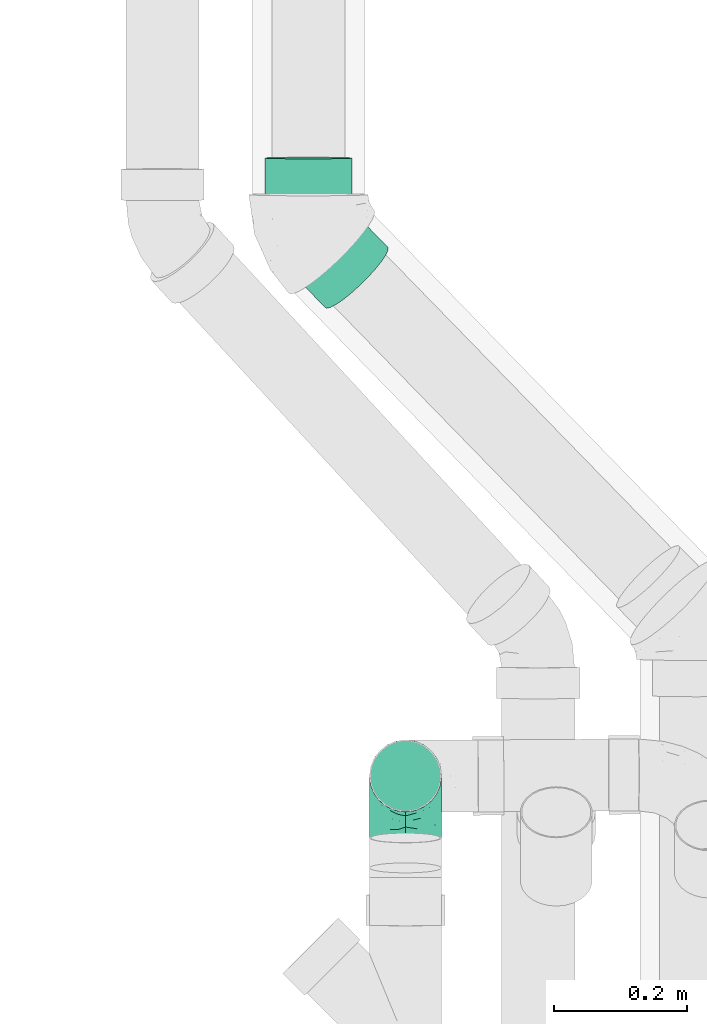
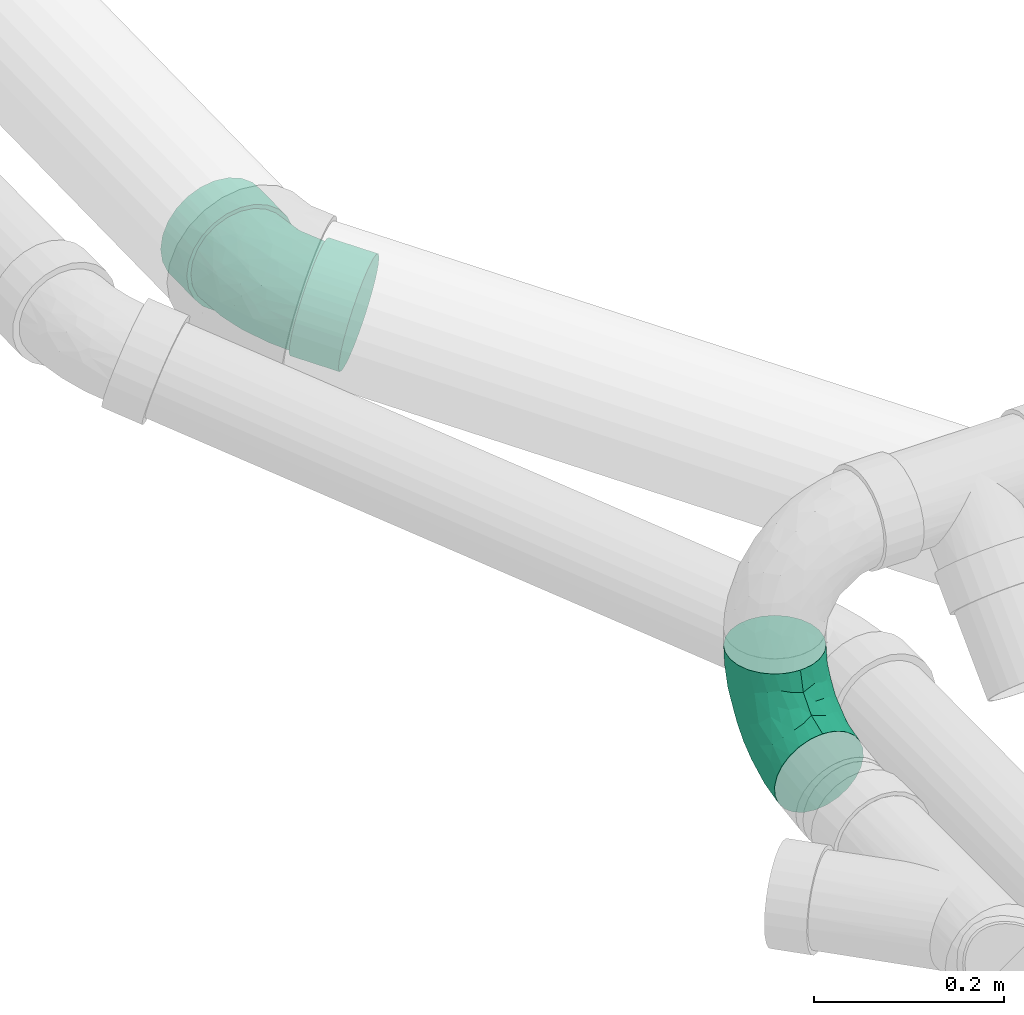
# One storey, part 71 of 78: 2 flow fittings.
"""IFC2X3 building model written with IfcOpenShell, lengths in millimetres."""

from ifc_helpers import new_model, entity, si_unit, converted_unit, derived_unit, direction, frame, origin_with_axes, place, context, subcontext, project, spatial, open_shell, surface_model, source, transform, mapped, type_object, element, save


model = new_model("IFC2X3")

# Units and contexts
model_context = context("Model", 3, precision=0.01, world=frame((0.0, 4.29681676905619e-09, 0.0)), true_north=direction((4.01073788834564e-13, 1.0)))
plan_context = context("Plan", 3, precision=0.01, world=frame((0.0, 4.29681676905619e-09, 0.0)), true_north=direction((4.01073788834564e-13, 1.0)))
body_context = subcontext(model_context, "Body", "Model", "MODEL_VIEW")
ifc_project = project(units=[converted_unit("PLANEANGLEUNIT", "DEGREE", entity("IfcPositiveLengthMeasure", 0.0174532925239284), si_unit("PLANEANGLEUNIT", "RADIAN"), dimensions=[0, 0, 0, 0, 0, 0, 0]), si_unit("AREAUNIT", "SQUARE_METRE"), si_unit("LENGTHUNIT", "METRE", prefix="MILLI"), si_unit("MASSUNIT", "GRAM", prefix="KILO"), si_unit("POWERUNIT", "WATT"), si_unit("PRESSUREUNIT", "PASCAL"), si_unit("FORCEUNIT", "NEWTON", prefix="KILO"), si_unit("ELECTRICVOLTAGEUNIT", "VOLT"), si_unit("ELECTRICCURRENTUNIT", "AMPERE"), si_unit("THERMODYNAMICTEMPERATUREUNIT", "DEGREE_CELSIUS"), si_unit("TIMEUNIT", "SECOND"), si_unit("VOLUMEUNIT", "CUBIC_METRE"), derived_unit("LINEARVELOCITYUNIT", [(si_unit("LENGTHUNIT", "METRE"), 1), (si_unit("TIMEUNIT", "SECOND"), -1)]), derived_unit("VOLUMETRICFLOWRATEUNIT", [(si_unit("VOLUMEUNIT", "CUBIC_METRE"), 1), (si_unit("TIMEUNIT", "SECOND"), -1)]), derived_unit("THERMALTRANSMITTANCEUNIT", [(si_unit("POWERUNIT", "WATT"), 1), (si_unit("THERMODYNAMICTEMPERATUREUNIT", "KELVIN"), -1), (si_unit("AREAUNIT", "SQUARE_METRE"), -1)]), derived_unit("SOUNDPRESSUREUNIT", [(si_unit("PRESSUREUNIT", "PASCAL"), 1)])], contexts=[model_context, plan_context])

# Site, building, storey
site_placement = place(None, frame((0.0, -4.29681676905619e-09, 0.0), z_axis=(0.0, 0.0, 1.0), x_axis=(1.0, 0.0, 0.0)))
site = spatial("IfcSite", under=ifc_project, at=site_placement, Name="ENGM", CompositionType="ELEMENT")
building_placement = place(site_placement, frame((0.0, 4.29681676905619e-09, 0.0), z_axis=(0.0, 0.0, 1.0), x_axis=(1.0, 0.0, 0.0)))
building = spatial("IfcBuilding", under=site, at=building_placement, Name="TH", CompositionType="ELEMENT")
storey_placement = place(building_placement, frame((0.0, 0.0, 205200.0), z_axis=(0.0, 0.0, 1.0), x_axis=(1.0, 0.0, 0.0)))
storey = spatial("IfcBuildingStorey", under=building, at=storey_placement, Name="Nivå D + 1,2 m", CompositionType="ELEMENT", Elevation=205200.0)

# Flow fittings
pipe_fitting_type_1 = type_object("IfcPipeFittingType", Name="magi_pipe_fe_elbow_short_001", PredefinedType="BEND")
shared_shape_1 = source(origin_with_axes(), body_context, "Body", "SurfaceModel", [
    surface_model("IfcShellBasedSurfaceModel", [(-93.94905, 0.0, -54.0), (-93.94905, -13.97623, -52.15999), (-93.94905, 13.97623, -52.15999), (-93.94905, -46.76537, 27.0), (-93.94905, 46.76537, -27.0), (-93.94905, 27.0, -46.76537), (-93.94905, 38.18377, -38.18377), (-93.94905, -27.0, -46.76537), (-93.94905, -38.18377, -38.18377), (-93.94905, -46.76537, -27.0), (-93.94905, -52.15999, -13.97623), (-93.94905, -54.0, 0.0), (-93.94905, 52.15999, -13.97623), (-93.94905, 46.76537, 27.0), (-93.94905, 52.15999, 13.97623), (-93.94905, 38.18377, 38.18377), (-93.94905, 13.97623, 52.15999), (-93.94905, 27.0, 46.76537), (-93.94905, -38.18377, 38.18377), (-93.94905, -27.0, 46.76537), (-93.94905, -52.15999, 13.97623), (-93.94905, -13.97623, 52.15999), (-93.94905, 0.0, 54.0), (-93.94905, 54.0, 0.0), (26.85191, 91.10837, -52.15999), (13.01035, 93.04384, -54.0), (-0.83122, 94.9793, -52.15999), (-13.7295, 96.78287, -46.76537), (-24.80551, 98.33164, -38.18377), (-33.30443, 99.52004, -27.0), (-38.64708, 100.26711, -13.97623), (59.32513, 86.56763, 27.0), (50.8262, 87.75604, -38.18377), (39.75019, 89.3048, -46.76537), (59.32513, 86.56763, -27.0), (64.66777, 85.82056, -13.97623), (64.66777, 85.82056, 13.97623), (66.49005, 85.56575, 0.0), (-24.80551, 98.33164, 38.18377), (-38.64708, 100.26711, 13.97623), (-33.30443, 99.52004, 27.0), (-13.7295, 96.78287, 46.76537), (-0.83122, 94.9793, 52.15999), (39.75019, 89.3048, 46.76537), (50.8262, 87.75604, 38.18377), (26.85191, 91.10837, 52.15999), (13.01035, 93.04384, 54.0), (-40.46935, 100.52192, 0.0), (25.32764, 1.74992, 15.46773), (10.59533, -11.79632, 17.75108), (4.08263, -19.90569, 9.53043), (-55.65457, -49.40881, 0.0), (-62.42229, -47.88759, 17.62234), (-67.20461, -50.79356, 0.0), (29.1295, 62.2293, 48.70802), (-34.46538, -26.66784, 37.11859), (-46.40612, -16.3487, 47.79758), (-61.7274, -31.7268, 40.78322), (-72.07418, -42.56483, 31.09932), (-45.74375, -37.90269, 28.83017), (-76.31324, 20.50282, 50.6428), (-68.42956, 34.6113, 44.69736), (17.12314, 32.57532, 47.18453), (2.93551, 16.83126, 47.846), (12.10876, 10.15203, 39.97889), (13.51901, 57.52355, 52.92284), (-72.43192, -20.89793, 49.00559), (-21.33248, -27.96674, 28.05007), (-32.20969, -39.16474, 15.94974), (-6.09994, -24.0905, 18.76166), (38.54555, 52.22525, 40.46658), (-71.44766, 57.44659, 11.93298), (-74.3344, 52.21432, 22.97977), (-63.28957, -6.217, 53.01626), (-68.5273, 7.40344, 53.83321), (-72.1523, 44.71996, 35.05931), (-58.45236, 56.40927, 29.27306), (-48.50842, 55.7633, 37.59383), (-44.94959, 67.09337, 31.06497), (-4.29813, 22.7131, 51.65568), (-34.2972, 77.65005, 35.05931), (-24.80148, 72.56331, 44.69736), (-3.57778, -25.06069, 0.0), (12.3751, -14.22591, 0.0), (-22.16421, 25.47907, 53.98251), (-43.57657, 10.36113, 53.96772), (-30.42055, 3.36426, 52.04149), (-54.58869, 25.13994, 51.49174), (42.84807, 25.20567, 14.90899), (47.44711, 31.32381, 0.0), (55.10308, 52.21632, 17.31459), (38.18282, 28.17989, 27.67359), (50.50562, 59.02503, 30.54492), (59.61085, 59.52303, 0.0), (-19.53066, -35.89546, 0.0), (-14.24267, -31.91796, 10.19751), (-17.3381, 57.54418, 51.49174), (-38.29746, 47.97647, 47.24762), (-32.03649, 36.82784, 52.24177), (-57.25684, 67.46696, 8.50513), (-69.14292, 60.03485, 0.0), (-49.88128, 76.79053, 0.0), (-45.84251, 80.81505, 11.58032), (-56.03452, 64.415, 19.81831), (-41.41718, 80.84897, 22.97977), (-3.30575, 43.8831, 53.91505), (-9.73718, 78.41723, 50.6428), (1.94353, 68.14484, 53.83992), (29.52328, 27.8231, 37.11853), (-9.48756, -12.94975, 36.79746), (-16.11537, 43.26142, 53.57497), (-10.60726, 1.01927, 46.4064), (13.39351, -2.26193, 28.47293), (-2.63713, -16.73705, 27.3063), (38.25426, 14.37157, 0.0), (56.63995, 48.27604, 0.0), (25.31468, 0.07283, 0.0), (-37.59261, -42.65213, 0.0), (-72.39732, 55.52089, -16.95892), (-67.93194, 52.59704, -26.95324), (3.44334, 73.91264, -53.78494), (-12.65128, 68.45732, -51.05285), (-73.67732, 6.82548, -53.78494), (-29.21756, -22.78632, -38.437), (-19.73206, -5.6336, -46.34038), (4.04787, -4.65326, -34.77494), (-66.04574, 22.00956, -51.05285), (-49.42229, 11.8665, -53.96087), (-44.37153, 55.51748, -40.42419), (-64.50409, 47.13657, -35.84407), (-51.35713, 59.03806, -32.5261), (-57.78628, 66.42874, -10.83971), (40.77762, 59.56565, -40.97793), (26.15136, 52.64783, -48.25267), (31.76668, 74.24644, -49.23995), (3.67588, -19.71125, -11.54824), (21.79933, -4.11054, -9.59278), (-55.76207, -18.60856, -48.25267), (-38.53943, -3.47862, -51.42068), (-65.25779, -48.33463, -17.90378), (-77.64882, -42.94057, -31.55897), (-55.1799, 63.43256, -22.84485), (-42.68284, 74.56119, -26.95324), (-22.66051, 25.46115, -53.98954), (-38.56977, 31.24434, -52.32334), (-22.36087, 38.40814, -53.3798), (-64.63873, -32.13589, -40.97793), (-53.97674, 33.53569, -48.62547), (-77.9302, -21.17874, -49.23995), (56.90601, 57.93549, -17.90378), (-55.20571, -40.13803, -29.66699), (-38.06341, -40.43584, -18.83775), (-31.18291, -32.78465, -28.05122), (-13.00502, -27.59156, -20.6043), (43.59599, 28.30373, -17.84614), (47.39634, 49.11536, -29.66699), (-71.14843, 34.02013, -44.5026), (-44.96014, 79.38846, -16.95892), (6.31015, 14.91294, -45.67227), (-12.56383, 14.44287, -51.57457), (-23.83949, 75.17411, -44.5026), (7.97914, 36.60319, -51.43464), (15.70978, 64.51079, -53.07208), (-37.74969, 70.41019, -35.84407), (53.27988, 70.95412, -31.55897), (24.31665, 3.25915, -20.44704), (34.19357, 22.70589, -28.39163), (-47.25758, -46.11657, -10.16733), (16.67509, 33.06226, -47.53731), (-66.06476, -6.62477, -53.07208), (26.6129, 25.78053, -38.437), (-15.07428, -32.34745, -10.38159), (-4.90802, 50.5894, -53.96087), (-11.07485, -20.22864, -30.32876), (6.12509, -12.72769, -23.09516), (-55.99598, 42.99525, -42.95295), (-40.84026, 46.94829, -46.71841), (-25.50496, 49.21606, -50.9899), (19.74981, 5.56117, -29.78971)], [open_shell([[[0, 1, 2]], [[1, 3, 2]], [[3, 4, 5]], [[6, 5, 4]], [[2, 3, 5]], [[7, 8, 1]], [[3, 1, 8]], [[9, 10, 8]], [[11, 8, 10]], [[11, 3, 8]], [[12, 4, 3]], [[12, 13, 14]], [[12, 15, 13]], [[16, 17, 15]], [[12, 3, 15]], [[15, 3, 16]], [[18, 19, 3]], [[3, 11, 20]], [[19, 21, 3]], [[21, 16, 3]], [[16, 21, 22]], [[12, 14, 23]], [[24, 25, 26]], [[27, 24, 26]], [[28, 29, 30]], [[28, 30, 27]], [[24, 27, 31]], [[24, 32, 33]], [[34, 32, 31]], [[32, 24, 31]], [[34, 31, 35]], [[35, 36, 37]], [[38, 27, 30]], [[30, 39, 38]], [[38, 39, 40]], [[38, 41, 42]], [[38, 31, 27]], [[31, 38, 42]], [[31, 43, 44]], [[36, 35, 31]], [[31, 45, 43]], [[31, 42, 45]], [[46, 45, 42]], [[47, 39, 30]], [[48, 49, 50]], [[51, 52, 53]], [[54, 43, 45]], [[55, 56, 57]], [[58, 52, 59]], [[60, 61, 17]], [[3, 58, 18]], [[62, 63, 64]], [[65, 45, 46]], [[57, 19, 18]], [[21, 19, 66]], [[67, 68, 69]], [[43, 54, 70]], [[50, 49, 69]], [[71, 14, 72]], [[22, 73, 74]], [[3, 20, 52]], [[15, 61, 75]], [[16, 22, 74]], [[76, 77, 78]], [[62, 79, 63]], [[72, 14, 13]], [[80, 81, 38]], [[23, 14, 71]], [[75, 77, 76]], [[21, 73, 22]], [[16, 60, 17]], [[52, 68, 59]], [[50, 82, 83]], [[84, 85, 86]], [[70, 44, 43]], [[85, 87, 74]], [[88, 89, 90]], [[91, 48, 88]], [[86, 73, 56]], [[62, 54, 65]], [[52, 20, 53]], [[90, 36, 31]], [[55, 57, 59]], [[92, 90, 31]], [[66, 57, 56]], [[90, 93, 36]], [[94, 95, 68]], [[90, 91, 88]], [[96, 97, 98]], [[99, 100, 71]], [[21, 66, 73]], [[101, 102, 47]], [[15, 17, 61]], [[102, 103, 104]], [[65, 105, 79]], [[81, 96, 106]], [[40, 39, 104]], [[105, 65, 107]], [[91, 90, 92]], [[108, 62, 64]], [[46, 42, 107]], [[106, 42, 41]], [[107, 65, 46]], [[97, 96, 81]], [[31, 44, 92]], [[18, 58, 57]], [[83, 48, 50]], [[81, 41, 38]], [[109, 55, 67]], [[80, 38, 40]], [[97, 81, 77]], [[97, 61, 87]], [[15, 75, 13]], [[65, 54, 45]], [[70, 54, 62]], [[106, 107, 42]], [[96, 98, 110]], [[44, 70, 92]], [[91, 92, 70]], [[56, 55, 111]], [[79, 84, 86]], [[73, 86, 85]], [[60, 74, 87]], [[80, 40, 104]], [[77, 81, 80]], [[61, 77, 75]], [[72, 76, 103]], [[61, 97, 77]], [[98, 97, 87]], [[108, 112, 91]], [[82, 50, 95]], [[111, 79, 86]], [[65, 79, 62]], [[56, 111, 86]], [[111, 109, 64]], [[112, 64, 109]], [[70, 108, 91]], [[109, 67, 113]], [[91, 112, 48]], [[75, 72, 13]], [[71, 72, 103]], [[102, 104, 39]], [[76, 78, 103]], [[103, 102, 99]], [[71, 100, 23]], [[47, 102, 39]], [[102, 101, 99]], [[48, 114, 88]], [[95, 50, 69]], [[110, 107, 96]], [[79, 105, 84]], [[52, 58, 3]], [[57, 58, 59]], [[57, 66, 19]], [[73, 66, 56]], [[85, 98, 87]], [[110, 84, 105]], [[75, 76, 72]], [[77, 80, 78]], [[80, 104, 78]], [[103, 78, 104]], [[100, 99, 101]], [[103, 99, 71]], [[81, 106, 41]], [[107, 106, 96]], [[74, 60, 16]], [[61, 60, 87]], [[67, 55, 59]], [[55, 109, 111]], [[68, 67, 59]], [[67, 69, 113]], [[49, 113, 69]], [[109, 113, 112]], [[84, 110, 98]], [[107, 110, 105]], [[20, 11, 53]], [[93, 90, 115]], [[93, 37, 36]], [[89, 115, 90]], [[48, 83, 116]], [[69, 68, 95]], [[52, 117, 68]], [[82, 95, 94]], [[48, 112, 49]], [[113, 49, 112]], [[85, 84, 98]], [[73, 85, 74]], [[79, 111, 63]], [[114, 48, 116]], [[64, 63, 111]], [[62, 108, 70]], [[112, 108, 64]], [[117, 52, 51]], [[117, 94, 68]], [[89, 88, 114]], [[4, 118, 119]], [[120, 121, 26]], [[0, 2, 122]], [[123, 124, 125]], [[122, 126, 127]], [[126, 2, 5]], [[100, 118, 23]], [[128, 129, 130]], [[118, 100, 131]], [[132, 133, 134]], [[129, 6, 4]], [[135, 136, 83]], [[26, 121, 27]], [[124, 137, 138]], [[139, 9, 140]], [[130, 141, 142]], [[139, 53, 10]], [[143, 144, 145]], [[146, 8, 7]], [[126, 147, 144]], [[148, 7, 1]], [[34, 35, 149]], [[139, 150, 151]], [[139, 10, 9]], [[146, 123, 150]], [[7, 148, 146]], [[151, 152, 153]], [[149, 154, 155]], [[100, 101, 131]], [[5, 6, 156]], [[47, 30, 157]], [[158, 124, 159]], [[12, 118, 4]], [[28, 27, 160]], [[161, 158, 159]], [[157, 142, 141]], [[26, 25, 120]], [[33, 32, 132]], [[162, 24, 134]], [[29, 28, 163]], [[164, 32, 34]], [[156, 126, 5]], [[143, 127, 144]], [[24, 162, 25]], [[165, 166, 154]], [[167, 139, 151]], [[133, 168, 161]], [[142, 29, 163]], [[9, 8, 140]], [[169, 137, 148]], [[133, 132, 170]], [[1, 0, 169]], [[149, 93, 115]], [[166, 155, 154]], [[171, 153, 135]], [[149, 155, 164]], [[160, 27, 121]], [[33, 134, 24]], [[161, 172, 162]], [[127, 126, 144]], [[153, 152, 173]], [[131, 157, 141]], [[153, 174, 135]], [[156, 175, 147]], [[176, 128, 160]], [[164, 132, 32]], [[170, 132, 155]], [[161, 162, 133]], [[120, 162, 172]], [[149, 35, 93]], [[149, 89, 154]], [[123, 146, 137]], [[140, 146, 150]], [[122, 169, 0]], [[127, 143, 138]], [[150, 152, 151]], [[51, 53, 167]], [[170, 168, 133]], [[136, 154, 114]], [[6, 129, 156]], [[129, 128, 175]], [[160, 121, 177]], [[163, 28, 160]], [[101, 47, 157]], [[118, 131, 141]], [[101, 157, 131]], [[29, 157, 30]], [[118, 141, 119]], [[118, 12, 23]], [[168, 170, 158]], [[161, 159, 143]], [[125, 158, 170]], [[158, 125, 124]], [[178, 170, 166]], [[173, 174, 153]], [[123, 137, 124]], [[138, 137, 169]], [[177, 144, 176]], [[143, 159, 138]], [[145, 144, 177]], [[161, 143, 172]], [[127, 138, 169]], [[159, 124, 138]], [[171, 151, 153]], [[94, 117, 171]], [[29, 142, 157]], [[130, 142, 163]], [[130, 119, 141]], [[4, 119, 129]], [[126, 122, 2]], [[169, 122, 127]], [[162, 120, 25]], [[121, 120, 172]], [[150, 123, 152]], [[173, 123, 125]], [[123, 173, 152]], [[125, 178, 174]], [[125, 174, 173]], [[136, 135, 174]], [[136, 174, 165]], [[135, 82, 171]], [[154, 136, 165]], [[136, 114, 116]], [[178, 166, 165]], [[35, 37, 93]], [[117, 167, 171]], [[82, 135, 83]], [[82, 94, 171]], [[155, 166, 170]], [[174, 178, 165]], [[116, 83, 136]], [[170, 178, 125]], [[171, 167, 151]], [[51, 167, 117]], [[160, 177, 176]], [[172, 177, 121]], [[177, 172, 145]], [[172, 143, 145]], [[139, 167, 53]], [[53, 11, 10]], [[132, 134, 33]], [[162, 134, 133]], [[149, 164, 34]], [[132, 164, 155]], [[169, 148, 1]], [[146, 148, 137]], [[146, 140, 8]], [[139, 140, 150]], [[128, 130, 163]], [[119, 130, 129]], [[160, 128, 163]], [[128, 176, 175]], [[147, 175, 176]], [[129, 175, 156]], [[144, 147, 176]], [[156, 147, 126]], [[89, 149, 115]], [[89, 114, 154]], [[158, 161, 168]]])]),
])
flow_fitting_1_placement = place(storey_placement, frame((903466.63208, 479929.1461, 4220.5515), z_axis=(-0.9999999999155, -1.07533479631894e-23, -1.29999999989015e-05), x_axis=(1.29999994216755e-05, 0.000297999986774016, -0.999999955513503)))
element("IfcFlowFitting", 1, at=flow_fitting_1_placement, inside=storey, type_object=pipe_fitting_type_1, Name="magi_pipe_fe_elbow_short_001", context=body_context, shape_type="MappedRepresentation", body=[
    mapped(shared_shape_1, transform((0.0, 0.0, 0.0), scale=1.0)),
])
pipe_fitting_type_2 = type_object("IfcPipeFittingType", Name="magi_sewer_bend_001", PredefinedType="BEND")
shared_shape_2 = source(origin_with_axes(), body_context, "Body", "SurfaceModel", [
    surface_model("IfcShellBasedSurfaceModel", [(-105.11984, -16.95265, -63.26814), (-105.11984, -32.75, -56.72466), (-105.11984, -46.3155, -46.3155), (-105.11984, -63.26814, -16.95265), (-105.11984, -56.72466, -32.75), (-105.11984, 56.72466, -32.75), (-105.11984, 46.3155, -46.3155), (-105.11984, -63.26814, 16.95265), (-105.11984, -56.72466, 32.75), (-105.11984, -46.3155, 46.3155), (-105.11984, -16.95265, 63.26814), (-105.11984, 0.0, 65.5), (-105.11984, -32.75, 56.72466), (-105.11984, 63.26814, 16.95265), (-105.11984, 46.3155, 46.3155), (-105.11984, 56.72466, 32.75), (-105.11984, 16.95265, 63.26814), (-105.11984, 32.75, 56.72466), (-50.11984, -16.95265, 63.26814), (-50.11984, 16.95265, 63.26814), (-50.11984, 0.0, 65.5), (-50.11984, -46.3155, 46.3155), (-50.11984, -32.75, 56.72466), (-50.11984, -56.72466, 32.75), (-50.11984, -63.26814, 16.95265), (-50.11984, 46.3155, 46.3155), (-50.11984, 32.75, 56.72466), (-50.11984, 63.26814, 16.95265), (-50.11984, 56.72466, 32.75), (-50.11984, 63.26814, -16.95265), (-50.11984, 65.5, 0.0), (-50.11984, -63.26814, -16.95265), (-50.11984, 32.75, -56.72466), (-50.11984, -65.5, 0.0), (-50.11984, -16.95265, -63.26814), (-50.11984, -56.72466, -32.75), (-50.11984, -46.3155, -46.3155), (-50.11984, -32.75, -56.72466), (-50.11984, 0.0, -65.5), (-50.11984, 46.3155, -46.3155), (-50.11984, 56.72466, -32.75), (-50.11984, 16.95265, -63.26814), (-105.11984, 63.26814, -16.95265), (-105.11984, 16.95265, -63.26814), (-105.11984, 65.5, 0.0), (-105.11984, 32.75, -56.72466), (-105.11984, 0.0, -65.5), (-105.11984, -65.5, 0.0), (29.59362, 119.06829, 16.95265), (34.22056, 114.44134, 32.75), (41.58095, 107.08095, 46.3155), (62.34362, 86.31829, 63.26814), (51.17321, 97.4887, 56.72466), (86.31829, 62.34362, 63.26814), (97.4887, 51.17321, 56.72466), (107.08095, 41.58095, 46.3155), (86.31829, 62.34362, -63.26814), (119.06829, 29.59362, 16.95265), (114.44134, 34.22056, 32.75), (68.19008, 2.69008, -46.3155), (47.42741, 23.45275, -63.26814), (58.59783, 12.28233, -56.72466), (-4.67032, 75.55048, 32.75), (12.28233, 58.59783, 56.72466), (2.69008, 68.19008, 46.3155), (23.45275, 47.42741, -63.26814), (62.34362, 86.31829, -63.26814), (35.44008, 35.44008, -65.5), (12.28233, 58.59783, -56.72466), (51.17321, 97.4887, -56.72466), (-9.29725, 80.17741, -16.95265), (-10.87541, 81.75557, 0.0), (29.59362, 119.06829, -16.95265), (2.69008, 68.19008, -46.3155), (41.58095, 107.08095, -46.3155), (74.33095, 74.33095, -65.5), (34.22056, 114.44134, -32.75), (-4.67032, 75.55048, -32.75), (28.01546, 120.64644, 0.0), (-9.29725, 80.17741, 16.95265), (23.45275, 47.42741, 63.26814), (35.44008, 35.44008, 65.5), (74.33095, 74.33095, 65.5), (47.42741, 23.45275, 63.26814), (58.59783, 12.28233, 56.72466), (75.55048, -4.67032, 32.75), (68.19008, 2.69008, 46.3155), (120.64644, 28.01546, 0.0), (80.17741, -9.29725, 16.95265), (81.75557, -10.87541, 0.0), (119.06829, 29.59362, -16.95265), (80.17741, -9.29725, -16.95265), (75.55048, -4.67032, -32.75), (114.44134, 34.22056, -32.75), (97.4887, 51.17321, -56.72466), (107.08095, 41.58095, -46.3155), (-50.11984, 15.65855, -58.43851), (-50.11984, 0.0, -60.5), (-50.11984, 58.43851, -15.65855), (-50.11984, 30.25, -52.39454), (-50.11984, 52.39454, -30.25), (-50.11984, 42.77996, -42.77996), (-50.11984, -60.5, 0.0), (-50.11984, -30.25, -52.39454), (-50.11984, -42.77996, -42.77996), (-50.11984, -15.65855, -58.43851), (-50.11984, -58.43851, -15.65855), (-50.11984, -52.39454, -30.25), (-50.11984, -58.43851, 15.65855), (-50.11984, 58.43851, 15.65855), (-50.11984, 52.39454, 30.25), (-50.11984, 42.77996, 42.77996), (-50.11984, 30.25, 52.39454), (-50.11984, 15.65855, 58.43851), (-50.11984, -52.39454, 30.25), (-50.11984, -42.77996, 42.77996), (-50.11984, -30.25, 52.39454), (-50.11984, -15.65855, 58.43851), (-50.11984, 0.0, 60.5), (-50.11984, 60.5, 0.0), (5.19008, 65.69008, -42.77996), (-1.60845, 72.48861, -30.25), (-5.88219, 76.76235, -15.65855), (35.44008, 35.44008, -60.5), (46.51235, 24.36781, -58.43851), (72.48861, -1.60845, -30.25), (78.22004, -7.33988, 0.0), (76.76235, -5.88219, -15.65855), (5.19008, 65.69008, 42.77996), (-5.88219, 76.76235, 15.65855), (-1.60845, 72.48861, 30.25), (14.0501, 56.83006, 52.39454), (15.40898, -37.20057, 33.71482), (-13.38469, -34.19321, 46.68416), (-19.53618, -46.27104, 35.42508), (-20.21421, -56.56285, 0.0), (-3.14418, -54.31554, 0.0), (-12.91334, -55.73755, 10.33096), (72.48861, -1.60845, 30.25), (65.69008, 5.19008, 42.77996), (46.53273, -18.9044, 35.42508), (-23.97238, -22.18485, 55.29389), (6.21199, -14.99708, 54.53161), (24.36781, 46.51235, 58.43851), (1.79579, 36.37132, 56.46814), (10.937, 28.63799, 59.62004), (-18.05654, -5.82509, 59.69848), (-5.75437, 13.89228, 60.2874), (-30.31328, 8.38356, 60.13285), (-17.18515, 41.48861, 49.39252), (-26.68033, 50.73817, 38.17957), (56.83006, 14.0501, 52.39454), (46.51235, 24.36781, 58.43851), (32.63809, 1.26397, 55.29389), (-23.24601, 25.1757, 56.55898), (23.34807, -39.59646, 23.84351), (-10.84785, -52.34167, 21.0101), (18.78371, -45.3479, 13.14971), (-24.92328, 60.17012, 24.85601), (76.76235, -5.88219, 15.65855), (48.54351, -30.28129, 10.33096), (54.28958, -25.70237, 0.0), (-24.23293, 64.82746, 12.71177), (44.68174, -29.34056, 21.0101), (35.44008, 35.44008, 60.5), (16.88687, 8.64894, 59.69848), (33.64265, -14.71385, 46.68416), (-26.96749, 65.10529, 0.0), (-7.33988, 78.22004, 0.0), (10.1548, -24.51586, 48.24539), (18.74299, -45.24957, 0.0), (40.63016, -36.18361, 0.0), (-18.05654, -5.82509, -59.69848), (-12.91334, -55.73755, -10.33096), (18.78371, -45.3479, -13.1497), (16.88687, 8.64894, -59.69848), (-26.98822, 24.44859, -56.46814), (-27.98374, 12.51649, -59.62004), (-17.01146, 54.74315, -38.17957), (56.83006, 14.0501, -52.39454), (65.69008, 5.19008, -42.77996), (33.64265, -14.71385, -46.68416), (-24.92328, 60.17012, -24.85601), (44.68174, -29.34056, -21.0101), (-28.70466, 62.9752, -12.71176), (14.0501, 56.83006, -52.39454), (24.36781, 46.51235, -58.43851), (-1.3645, 34.23932, -56.55898), (-10.84785, -52.34167, -21.0101), (-17.18515, 41.48861, -49.39253), (-19.53618, -46.27104, -35.42508), (-13.38469, -34.19321, -46.68416), (10.1548, -24.51586, -48.24539), (15.40898, -37.20057, -33.71482), (-23.97238, -22.18485, -55.29389), (32.63809, 1.26397, -55.29389), (6.21199, -14.99708, -54.53161), (48.54351, -30.28129, -10.33096), (15.50665, 27.3628, -60.13285), (11.48935, -44.50851, -23.84351), (46.53273, -18.9044, -35.42508), (-5.75437, 13.89228, -60.2874)], [open_shell([[[0, 1, 2]], [[0, 2, 3]], [[3, 2, 4]], [[0, 5, 6]], [[7, 8, 9]], [[10, 11, 9]], [[10, 9, 12]], [[13, 14, 15]], [[14, 16, 17]], [[16, 14, 13]], [[18, 19, 20]], [[21, 18, 22]], [[21, 23, 24]], [[18, 21, 19]], [[24, 19, 21]], [[19, 25, 26]], [[25, 19, 27]], [[25, 27, 28]], [[19, 24, 27]], [[27, 29, 30]], [[27, 24, 29]], [[31, 32, 33]], [[34, 31, 35]], [[36, 37, 34]], [[36, 34, 35]], [[38, 31, 34]], [[33, 39, 40]], [[40, 29, 33]], [[32, 38, 41]], [[32, 39, 33]], [[32, 31, 38]], [[33, 29, 24]], [[29, 42, 30]], [[40, 5, 29]], [[41, 38, 43]], [[39, 6, 40]], [[29, 5, 42]], [[42, 44, 30]], [[45, 32, 43]], [[45, 6, 39]], [[32, 41, 43]], [[6, 5, 40]], [[39, 32, 45]], [[38, 46, 43]], [[0, 34, 37]], [[36, 1, 37]], [[4, 35, 31]], [[36, 35, 2]], [[3, 31, 33]], [[34, 0, 46]], [[37, 1, 0]], [[36, 2, 1]], [[35, 4, 2]], [[3, 4, 31]], [[33, 47, 3]], [[34, 46, 38]], [[24, 7, 33]], [[23, 8, 24]], [[22, 12, 21]], [[21, 9, 23]], [[24, 8, 7]], [[7, 47, 33]], [[11, 10, 18]], [[10, 12, 22]], [[9, 21, 12]], [[9, 8, 23]], [[18, 10, 22]], [[18, 20, 11]], [[16, 19, 26]], [[25, 17, 26]], [[15, 28, 27]], [[25, 28, 14]], [[13, 27, 30]], [[19, 16, 11]], [[26, 17, 16]], [[25, 14, 17]], [[28, 15, 14]], [[13, 15, 27]], [[30, 44, 13]], [[19, 11, 20]], [[48, 49, 50]], [[51, 50, 52]], [[53, 54, 55]], [[56, 53, 55]], [[57, 55, 58]], [[59, 60, 61]], [[62, 63, 64]], [[65, 66, 67]], [[68, 69, 65]], [[70, 71, 72]], [[73, 74, 68]], [[65, 69, 66]], [[66, 75, 67]], [[76, 77, 72]], [[76, 74, 73]], [[77, 70, 72]], [[74, 69, 68]], [[73, 77, 76]], [[71, 78, 72]], [[48, 79, 62]], [[64, 49, 62]], [[52, 63, 80]], [[64, 63, 50]], [[51, 80, 81]], [[79, 48, 78]], [[62, 49, 48]], [[64, 50, 49]], [[63, 52, 50]], [[51, 52, 80]], [[81, 82, 51]], [[79, 78, 71]], [[83, 53, 81]], [[84, 54, 83]], [[85, 58, 86]], [[86, 55, 84]], [[83, 54, 53]], [[53, 82, 81]], [[87, 57, 88]], [[57, 58, 85]], [[55, 86, 58]], [[55, 54, 84]], [[88, 57, 85]], [[88, 89, 87]], [[90, 91, 92]], [[59, 93, 92]], [[94, 61, 60]], [[59, 61, 95]], [[56, 60, 67]], [[91, 90, 87]], [[92, 93, 90]], [[59, 95, 93]], [[61, 94, 95]], [[56, 94, 60]], [[67, 75, 56]], [[91, 87, 89]], [[96, 97, 98]], [[99, 96, 98]], [[98, 100, 101]], [[99, 98, 101]], [[102, 98, 97]], [[103, 104, 105]], [[104, 97, 105]], [[106, 102, 107]], [[104, 107, 102]], [[104, 102, 97]], [[102, 108, 98]], [[109, 98, 108]], [[110, 109, 111]], [[112, 109, 108]], [[111, 109, 112]], [[113, 112, 108]], [[114, 115, 108]], [[116, 108, 115]], [[117, 118, 116]], [[108, 116, 118]], [[118, 113, 108]], [[119, 98, 109]], [[120, 121, 122]], [[123, 122, 124]], [[125, 126, 127]], [[128, 129, 130]], [[131, 129, 128]], [[132, 133, 134]], [[135, 136, 137]], [[116, 115, 133]], [[138, 139, 140]], [[141, 133, 142]], [[134, 133, 115]], [[143, 144, 145]], [[117, 116, 141]], [[146, 147, 148]], [[118, 117, 146]], [[111, 149, 150]], [[151, 152, 153]], [[148, 113, 118]], [[112, 154, 149]], [[108, 135, 137]], [[131, 128, 149]], [[155, 156, 157]], [[149, 111, 112]], [[115, 114, 134]], [[110, 150, 158]], [[109, 110, 158]], [[159, 160, 161]], [[162, 119, 109]], [[163, 155, 157]], [[156, 137, 157]], [[112, 113, 154]], [[164, 145, 165]], [[139, 151, 166]], [[130, 129, 158]], [[165, 152, 164]], [[132, 134, 156]], [[139, 166, 140]], [[147, 145, 144]], [[166, 151, 153]], [[114, 156, 134]], [[160, 159, 163]], [[132, 140, 166]], [[148, 154, 113]], [[132, 155, 140]], [[109, 158, 162]], [[114, 108, 156]], [[167, 162, 168]], [[133, 169, 142]], [[129, 162, 158]], [[142, 165, 146]], [[130, 158, 150]], [[142, 153, 165]], [[130, 150, 128]], [[147, 146, 165]], [[143, 131, 144]], [[144, 149, 154]], [[141, 146, 117]], [[110, 111, 150]], [[163, 159, 138]], [[163, 138, 140]], [[169, 132, 166]], [[128, 150, 149]], [[149, 144, 131]], [[147, 144, 154]], [[133, 141, 116]], [[146, 141, 142]], [[165, 153, 152]], [[166, 153, 142]], [[108, 102, 135]], [[157, 136, 170]], [[108, 137, 156]], [[136, 157, 137]], [[160, 157, 171]], [[161, 160, 171]], [[161, 126, 159]], [[157, 160, 163]], [[165, 145, 147]], [[164, 143, 145]], [[146, 148, 118]], [[154, 148, 147]], [[132, 169, 133]], [[166, 142, 169]], [[168, 162, 129]], [[162, 167, 119]], [[140, 155, 163]], [[156, 155, 132]], [[171, 157, 170]], [[105, 97, 172]], [[136, 173, 174]], [[123, 124, 175]], [[176, 177, 96]], [[100, 178, 101]], [[179, 180, 181]], [[182, 178, 100]], [[125, 127, 183]], [[98, 184, 182]], [[185, 186, 187]], [[106, 173, 135]], [[99, 176, 96]], [[173, 106, 188]], [[120, 189, 178]], [[188, 107, 190]], [[190, 104, 191]], [[104, 103, 191]], [[192, 193, 191]], [[106, 107, 188]], [[104, 190, 107]], [[194, 103, 105]], [[195, 175, 124]], [[122, 121, 182]], [[196, 194, 172]], [[119, 167, 184]], [[193, 190, 191]], [[168, 122, 184]], [[196, 172, 175]], [[120, 185, 189]], [[182, 100, 98]], [[121, 178, 182]], [[194, 191, 103]], [[187, 189, 185]], [[177, 172, 97]], [[189, 187, 176]], [[101, 189, 99]], [[127, 161, 197]], [[198, 186, 123]], [[195, 124, 179]], [[199, 183, 174]], [[180, 200, 181]], [[196, 195, 181]], [[180, 125, 200]], [[201, 198, 175]], [[200, 193, 181]], [[201, 175, 172]], [[197, 161, 171]], [[198, 187, 186]], [[201, 177, 176]], [[173, 188, 174]], [[193, 199, 190]], [[181, 192, 196]], [[125, 183, 200]], [[122, 182, 184]], [[193, 200, 183]], [[121, 120, 178]], [[101, 178, 189]], [[189, 176, 99]], [[201, 176, 187]], [[172, 194, 105]], [[191, 194, 196]], [[181, 195, 179]], [[175, 195, 196]], [[135, 173, 136]], [[135, 102, 106]], [[199, 174, 188]], [[197, 174, 183]], [[174, 171, 170]], [[127, 126, 161]], [[174, 197, 171]], [[127, 197, 183]], [[172, 177, 201]], [[97, 96, 177]], [[175, 198, 123]], [[187, 198, 201]], [[193, 192, 181]], [[191, 196, 192]], [[119, 184, 98]], [[184, 167, 168]], [[190, 199, 188]], [[183, 199, 193]], [[136, 174, 170]], [[0, 3, 5]], [[5, 3, 47]], [[0, 43, 46]], [[0, 45, 43]], [[6, 45, 0]], [[47, 42, 5]], [[47, 7, 42]], [[42, 9, 13]], [[13, 9, 11]], [[44, 42, 13]], [[11, 16, 13]], [[42, 7, 9]], [[56, 95, 94]], [[124, 180, 179]], [[159, 126, 125]], [[125, 180, 159]], [[159, 139, 138]], [[139, 159, 151]], [[129, 122, 168]], [[72, 74, 76]], [[87, 90, 56]], [[86, 88, 85]], [[60, 65, 67]], [[80, 83, 81]], [[120, 186, 185]], [[159, 122, 129]], [[129, 131, 159]], [[143, 159, 131]], [[159, 143, 164]], [[73, 70, 77]], [[120, 123, 186]], [[78, 48, 50]], [[78, 50, 51]], [[56, 72, 51]], [[72, 78, 51]], [[72, 69, 74]], [[72, 56, 69]], [[69, 75, 66]], [[82, 56, 51]], [[56, 55, 57]], [[56, 57, 87]], [[75, 69, 56]], [[56, 93, 95]], [[93, 56, 90]], [[56, 82, 53]], [[88, 59, 89]], [[84, 83, 88]], [[84, 88, 86]], [[88, 65, 60]], [[91, 59, 92]], [[91, 89, 59]], [[88, 60, 59]], [[88, 83, 80]], [[88, 80, 62]], [[62, 80, 63]], [[88, 62, 65]], [[65, 62, 79]], [[68, 70, 73]], [[71, 68, 65]], [[70, 68, 71]], [[65, 79, 71]], [[120, 122, 123]], [[180, 124, 159]], [[159, 124, 122]], [[159, 152, 151]], [[152, 159, 164]]])]),
])
flow_fitting_2_placement = place(storey_placement, frame((903320.98069, 480751.37234, 4332.83233999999), z_axis=(0.246527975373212, -0.0193789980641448, 0.968941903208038), x_axis=(-3.94365855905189e-08, -0.99980005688, -0.0199961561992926)))
element("IfcFlowFitting", 2, at=flow_fitting_2_placement, inside=storey, type_object=pipe_fitting_type_2, Name="magi_sewer_bend_001", context=body_context, shape_type="MappedRepresentation", body=[
    mapped(shared_shape_2, transform((0.0, 0.0, 0.0), scale=1.0)),
])

save(model, "model.ifc")
